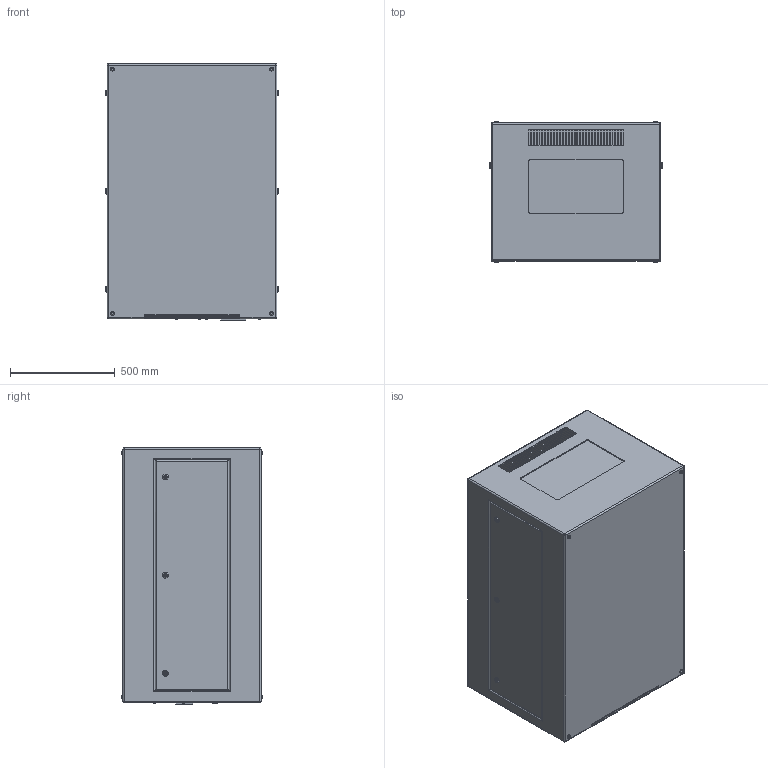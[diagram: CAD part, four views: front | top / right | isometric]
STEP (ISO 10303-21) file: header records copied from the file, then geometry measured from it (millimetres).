
FILE_DESCRIPTION (( 'STEP AP214' ), '1' );
FILE_NAME ('Zen 57.150.L R11.STEP', '2022-09-15T21:13:15', ( '' ), ( '' ), 'SwSTEP 2.0', 'SolidWorks 2020', '' );
FILE_SCHEMA (( 'AUTOMOTIVE_DESIGN' ));
Length unit declared in the file: inch
Products named in the file (1): Zen 57.150.L R11
Bounding box: 825.5 x 675.06 x 1226.82 mm (x, y, z)
Volume: 652977537.9 mm3; surface area: 4990992 mm2
Topology: 1 solids, 5 shells, 1098 faces, 2776 edges, 1706 vertices
Faces by surface type: plane 498, cylinder 478, sphere 74, torus 48
Entity records: 36074 total; most frequent: CARTESIAN_POINT 5971, DIRECTION 5824, ORIENTED_EDGE 5404, EDGE_CURVE 2702, AXIS2_PLACEMENT_3D 2103, VERTEX_POINT 1706, VECTOR 1618, LINE 1618
